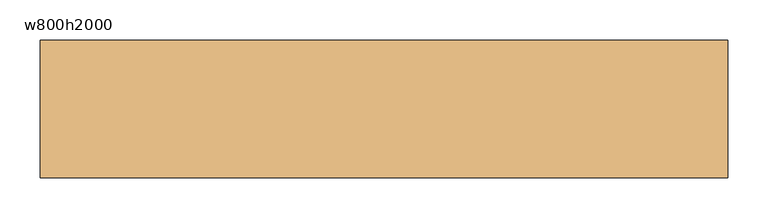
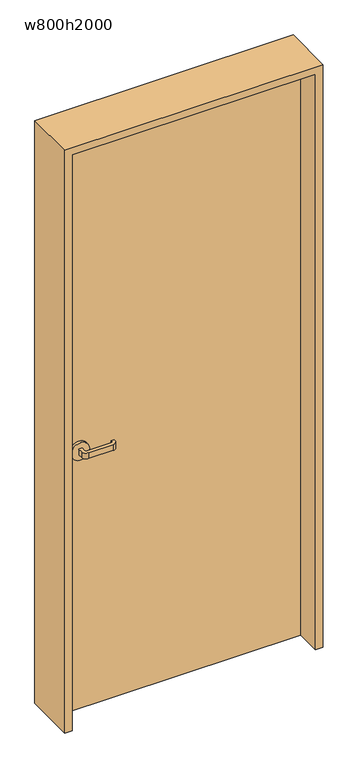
"""IFC4 building model written with IfcOpenShell, lengths in millimetres: door geometry, 片開き戸 : w800h2000."""

from ifc_helpers import new_model, si_unit, point, frame, frame_2d, origin, origin_with_axes, place, context, project, spatial, polyline, circle_curve, trimmed, segment, composite_curve, outline, extrude, source, transform, mapped, element, save


def w800h2000_d618cdcf(model_context):
    return source(origin(), model_context, "Body", "SweptSolid", [
        extrude(outline(polyline([(400.0, 40.0), (400.0, 0.0), (-400.0, 0.0), (-400.0, 40.0), (400.0, 40.0)])), origin_with_axes(), (0.0, 0.0, 1.0), 2000.0),
        extrude(outline(composite_curve([segment(polyline([(-325.0, 50.0), (-335.0, 50.0), (-335.0, 65.0)]), True, "CONTINUOUS"), segment(trimmed(circle_curve(frame_2d((-320.0, 65.0)), 15.0), [point((-335.0, 65.0))], [point((-320.0, 80.0))], False, "CARTESIAN"), True, "CONTINUOUS"), segment(polyline([(-320.0, 80.0), (-240.0, 80.0)]), True, "CONTINUOUS"), segment(trimmed(circle_curve(frame_2d((-240.0, 65.0)), 15.0), [point((-240.0, 80.0))], [point((-225.0, 65.0))], False, "CARTESIAN"), True, "CONTINUOUS"), segment(polyline([(-225.0, 65.0), (-225.0, 60.0), (-235.0, 60.0), (-235.0, 65.0)]), True, "CONTINUOUS"), segment(trimmed(circle_curve(frame_2d((-240.0, 65.0)), 5.0), [point((-235.0, 65.0))], [point((-240.0, 70.0))], True, "CARTESIAN"), True, "CONTINUOUS"), segment(polyline([(-240.0, 70.0), (-320.0, 70.0)]), True, "CONTINUOUS"), segment(trimmed(circle_curve(frame_2d((-320.0, 65.0)), 5.0), [point((-320.0, 70.0))], [point((-325.0, 65.0))], True, "CARTESIAN"), True, "CONTINUOUS"), segment(polyline([(-325.0, 65.0), (-325.0, 50.0)]), True, "CONTINUOUS")], self_intersect=False)), frame((0.0, 0.0, 890.0), z_axis=(0.0, 0.0, 1.0), x_axis=(1.0, 0.0, 0.0)), (0.0, 0.0, 1.0), 20.0),
        extrude(outline(composite_curve([segment(trimmed(circle_curve(frame_2d((900.0, -330.0)), 30.0), [point((900.0, -360.0))], [point((900.0, -300.0))], False, "CARTESIAN"), True, "CONTINUOUS"), segment(trimmed(circle_curve(frame_2d((900.0, -330.0)), 30.0), [point((900.0, -300.0))], [point((900.0, -360.0))], False, "CARTESIAN"), True, "CONTINUOUS")], self_intersect=False)), frame((0.0, 40.0, 0.0), z_axis=(0.0, 1.0, 0.0), x_axis=(0.0, 0.0, 1.0)), (0.0, 0.0, 1.0), 10.0),
        extrude(outline(composite_curve([segment(polyline([(-335.0, -10.0), (-325.0, -10.0), (-325.0, -25.0)]), True, "CONTINUOUS"), segment(trimmed(circle_curve(frame_2d((-320.0, -25.0)), 5.0), [point((-325.0, -25.0))], [point((-320.0, -30.0))], True, "CARTESIAN"), True, "CONTINUOUS"), segment(polyline([(-320.0, -30.0), (-240.0, -30.0)]), True, "CONTINUOUS"), segment(trimmed(circle_curve(frame_2d((-240.0, -25.0)), 5.0), [point((-240.0, -30.0))], [point((-235.0, -25.0))], True, "CARTESIAN"), True, "CONTINUOUS"), segment(polyline([(-235.0, -25.0), (-235.0, -20.0), (-225.0, -20.0), (-225.0, -25.0)]), True, "CONTINUOUS"), segment(trimmed(circle_curve(frame_2d((-240.0, -25.0)), 15.0), [point((-225.0, -25.0))], [point((-240.0, -40.0))], False, "CARTESIAN"), True, "CONTINUOUS"), segment(polyline([(-240.0, -40.0), (-320.0, -40.0)]), True, "CONTINUOUS"), segment(trimmed(circle_curve(frame_2d((-320.0, -25.0)), 15.0), [point((-320.0, -40.0))], [point((-335.0, -25.0))], False, "CARTESIAN"), True, "CONTINUOUS"), segment(polyline([(-335.0, -25.0), (-335.0, -10.0)]), True, "CONTINUOUS")], self_intersect=False)), frame((0.0, 0.0, 890.0), z_axis=(0.0, 0.0, 1.0), x_axis=(1.0, 0.0, 0.0)), (0.0, 0.0, 1.0), 20.0),
        extrude(outline(composite_curve([segment(trimmed(circle_curve(frame_2d((900.0, -330.0)), 30.0), [point((900.0, -360.0))], [point((900.0, -300.0))], False, "CARTESIAN"), True, "CONTINUOUS"), segment(trimmed(circle_curve(frame_2d((900.0, -330.0)), 30.0), [point((900.0, -300.0))], [point((900.0, -360.0))], False, "CARTESIAN"), True, "CONTINUOUS")], self_intersect=False)), frame((0.0, -10.0, 0.0), z_axis=(0.0, 1.0, 0.0), x_axis=(0.0, 0.0, 1.0)), (0.0, 0.0, 1.0), 10.0),
        extrude(outline(polyline([(0.0, -425.0), (0.0, -400.0), (2000.0, -400.0), (2000.0, 400.0), (0.0, 400.0), (0.0, 425.0), (2025.0, 425.0), (2025.0, -425.0), (0.0, -425.0)])), frame((0.0, -85.0, 0.0), z_axis=(0.0, 1.0, 0.0), x_axis=(0.0, 0.0, 1.0)), (0.0, 0.0, 1.0), 170.0),
    ])


if __name__ == "__main__":
    model = new_model("IFC4")
    model_context = context("Model", 3, world=origin())
    ifc_project = project(units=[si_unit("LENGTHUNIT", "METRE", prefix="MILLI")], contexts=[model_context])
    site = spatial("IfcSite", under=ifc_project)
    building = spatial("IfcBuilding", under=site)
    placement = place(None, origin())
    w800h2000_shape = w800h2000_d618cdcf(model_context)
    element("IfcDoor", 1, ObjectType="片開き戸 : w800h2000", at=placement, inside=building, context=model_context, shape_type="MappedRepresentation", body=[
        mapped(w800h2000_shape, transform((0.0, 0.0, 0.0), x_axis=(1.0, 0.0, 0.0), y_axis=(0.0, 1.0, 0.0), z_axis=(0.0, 0.0, 1.0))),
    ])
    save(model, "model.ifc")
